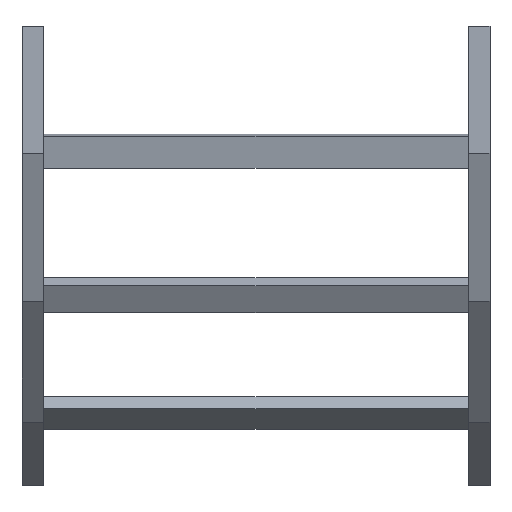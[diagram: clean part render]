
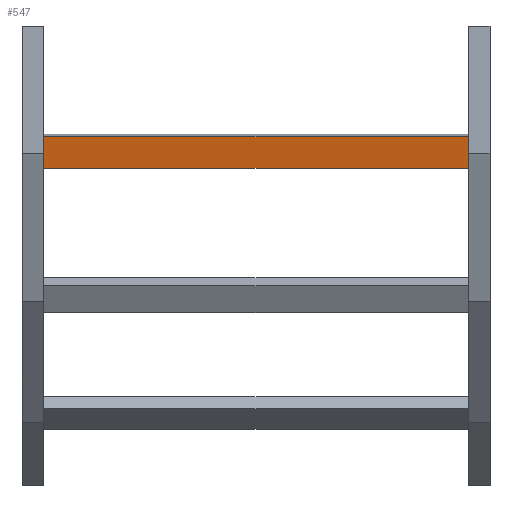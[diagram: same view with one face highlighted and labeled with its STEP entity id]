
A CAD part, front view. The second image highlights one B-rep face of the part: STEP entity #547.
In plain terms, the highlighted planar face has unit normal (0, -0.985, -0.174) as drawn and (0, -1, 0) by its records, which use the part's own axes.
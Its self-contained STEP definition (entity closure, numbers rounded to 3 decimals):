
#108 = VECTOR ( 'NONE', #1555, 1000. ) ;
#161 = CARTESIAN_POINT ( 'NONE',  ( -298., 0., 20.25 ) ) ;
#186 = CARTESIAN_POINT ( 'NONE',  ( 298., 0., 20.25 ) ) ;
#239 = ORIENTED_EDGE ( 'NONE', *, *, #1321, .T. ) ;
#296 = ORIENTED_EDGE ( 'NONE', *, *, #907, .T. ) ;
#404 = CARTESIAN_POINT ( 'NONE',  ( 298., 0., 20.25 ) ) ;
#421 = VERTEX_POINT ( 'NONE', #161 ) ;
#429 = FACE_OUTER_BOUND ( 'NONE', #863, .T. ) ;
#478 = AXIS2_PLACEMENT_3D ( 'NONE', #844, #1124, #1353 ) ;
#547 = ADVANCED_FACE ( 'NONE', ( #429 ), #974, .F. ) ;
#650 = VERTEX_POINT ( 'NONE', #754 ) ;
#731 = DIRECTION ( 'NONE',  ( 0., 0., -1. ) ) ;
#754 = CARTESIAN_POINT ( 'NONE',  ( -298., 0., -20.25 ) ) ;
#797 = ORIENTED_EDGE ( 'NONE', *, *, #1127, .F. ) ;
#844 = CARTESIAN_POINT ( 'NONE',  ( 298., 0., 20.25 ) ) ;
#855 = LINE ( 'NONE', #186, #1134 ) ;
#863 = EDGE_LOOP ( 'NONE', ( #296, #1042, #797, #239 ) ) ;
#907 = EDGE_CURVE ( 'NONE', #421, #650, #1161, .T. ) ;
#916 = VECTOR ( 'NONE', #1054, 1000. ) ;
#948 = VERTEX_POINT ( 'NONE', #1199 ) ;
#952 = DIRECTION ( 'NONE',  ( -1., 0., 0. ) ) ;
#974 = PLANE ( 'NONE',  #478 ) ;
#1042 = ORIENTED_EDGE ( 'NONE', *, *, #1582, .F. ) ;
#1054 = DIRECTION ( 'NONE',  ( -1., 0., 0. ) ) ;
#1124 = DIRECTION ( 'NONE',  ( 0., 1., 0. ) ) ;
#1127 = EDGE_CURVE ( 'NONE', #1596, #948, #855, .T. ) ;
#1134 = VECTOR ( 'NONE', #731, 1000. ) ;
#1161 = LINE ( 'NONE', #1269, #108 ) ;
#1196 = CARTESIAN_POINT ( 'NONE',  ( 298., 0., -20.25 ) ) ;
#1199 = CARTESIAN_POINT ( 'NONE',  ( 298., 0., -20.25 ) ) ;
#1269 = CARTESIAN_POINT ( 'NONE',  ( -298., 0., 20.25 ) ) ;
#1316 = LINE ( 'NONE', #1196, #916 ) ;
#1321 = EDGE_CURVE ( 'NONE', #1596, #421, #1589, .T. ) ;
#1348 = VECTOR ( 'NONE', #952, 1000. ) ;
#1353 = DIRECTION ( 'NONE',  ( 0., 0., 1. ) ) ;
#1453 = CARTESIAN_POINT ( 'NONE',  ( 298., 0., 20.25 ) ) ;
#1555 = DIRECTION ( 'NONE',  ( 0., 0., -1. ) ) ;
#1582 = EDGE_CURVE ( 'NONE', #948, #650, #1316, .T. ) ;
#1589 = LINE ( 'NONE', #404, #1348 ) ;
#1596 = VERTEX_POINT ( 'NONE', #1453 ) ;
